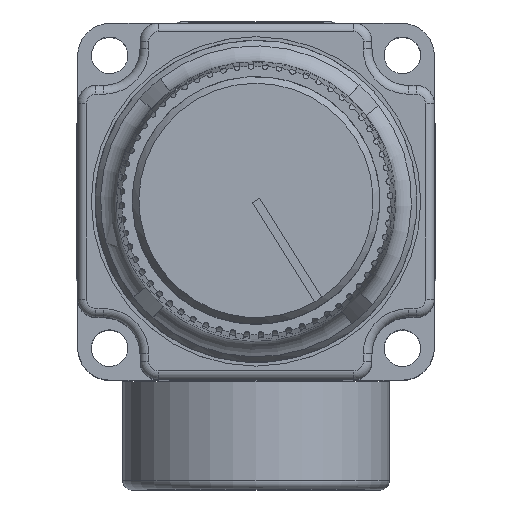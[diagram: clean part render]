
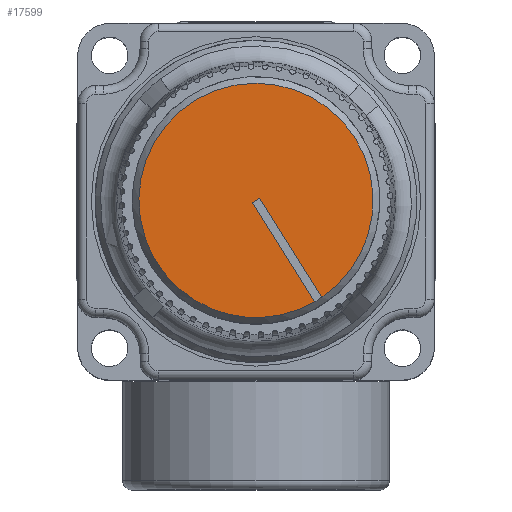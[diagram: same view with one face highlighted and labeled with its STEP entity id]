
A CAD part, top view. The second image highlights one B-rep face of the part: STEP entity #17599.
In plain terms, the highlighted planar face has unit normal (0, 0, 1).
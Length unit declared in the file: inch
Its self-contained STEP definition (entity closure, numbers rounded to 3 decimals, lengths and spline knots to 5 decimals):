
#401=PLANE('',#18899);
#1047=CIRCLE('',#18900,0.4);
#1048=CIRCLE('',#18901,0.4);
#2139=FACE_OUTER_BOUND('',#3133,.T.);
#3133=EDGE_LOOP('',(#12214,#12215,#12216,#12217,#12218));
#4529=LINE('',#28719,#5767);
#4530=LINE('',#28725,#5768);
#4531=LINE('',#28726,#5769);
#5767=VECTOR('',#21927,0.3937);
#5768=VECTOR('',#21932,0.3937);
#5769=VECTOR('',#21933,0.3937);
#7075=VERTEX_POINT('',#28717);
#7076=VERTEX_POINT('',#28718);
#7077=VERTEX_POINT('',#28720);
#7078=VERTEX_POINT('',#28722);
#7079=VERTEX_POINT('',#28724);
#8998=EDGE_CURVE('',#7075,#7076,#4529,.T.);
#8999=EDGE_CURVE('',#7076,#7077,#1047,.T.);
#9000=EDGE_CURVE('',#7077,#7078,#1048,.T.);
#9001=EDGE_CURVE('',#7078,#7079,#4530,.T.);
#9002=EDGE_CURVE('',#7079,#7075,#4531,.T.);
#12214=ORIENTED_EDGE('',*,*,#8998,.T.);
#12215=ORIENTED_EDGE('',*,*,#8999,.T.);
#12216=ORIENTED_EDGE('',*,*,#9000,.T.);
#12217=ORIENTED_EDGE('',*,*,#9001,.T.);
#12218=ORIENTED_EDGE('',*,*,#9002,.T.);
#17599=ADVANCED_FACE('',(#2139),#401,.T.);
#18899=AXIS2_PLACEMENT_3D('',#28716,#21925,#21926);
#18900=AXIS2_PLACEMENT_3D('',#28721,#21928,#21929);
#18901=AXIS2_PLACEMENT_3D('',#28723,#21930,#21931);
#21925=DIRECTION('center_axis',(0.,0.,1.));
#21926=DIRECTION('ref_axis',(1.,0.,0.));
#21927=DIRECTION('',(0.532,-0.847,0.));
#21928=DIRECTION('center_axis',(0.,0.,1.));
#21929=DIRECTION('ref_axis',(0.847,0.532,0.));
#21930=DIRECTION('center_axis',(0.,0.,1.));
#21931=DIRECTION('ref_axis',(0.847,0.532,0.));
#21932=DIRECTION('',(-0.532,0.847,0.));
#21933=DIRECTION('',(0.847,0.532,0.));
#28716=CARTESIAN_POINT('Origin',(-0.22065,-0.29194,1.8705));
#28717=CARTESIAN_POINT('',(0.13743,-0.06736,1.8705));
#28718=CARTESIAN_POINT('',(0.34992,-0.40592,1.8705));
#28719=CARTESIAN_POINT('',(0.13743,-0.06736,1.8705));
#28720=CARTESIAN_POINT('',(-0.02743,-0.44526,1.8705));
#28721=CARTESIAN_POINT('Origin',(0.12473,-0.07533,
1.8705));
#28722=CARTESIAN_POINT('',(0.32451,-0.42186,1.8705));
#28723=CARTESIAN_POINT('Origin',(0.12473,-0.07533,
1.8705));
#28724=CARTESIAN_POINT('',(0.11202,-0.0833,1.8705));
#28725=CARTESIAN_POINT('',(0.32451,-0.42186,1.8705));
#28726=CARTESIAN_POINT('',(0.11202,-0.0833,1.8705));
